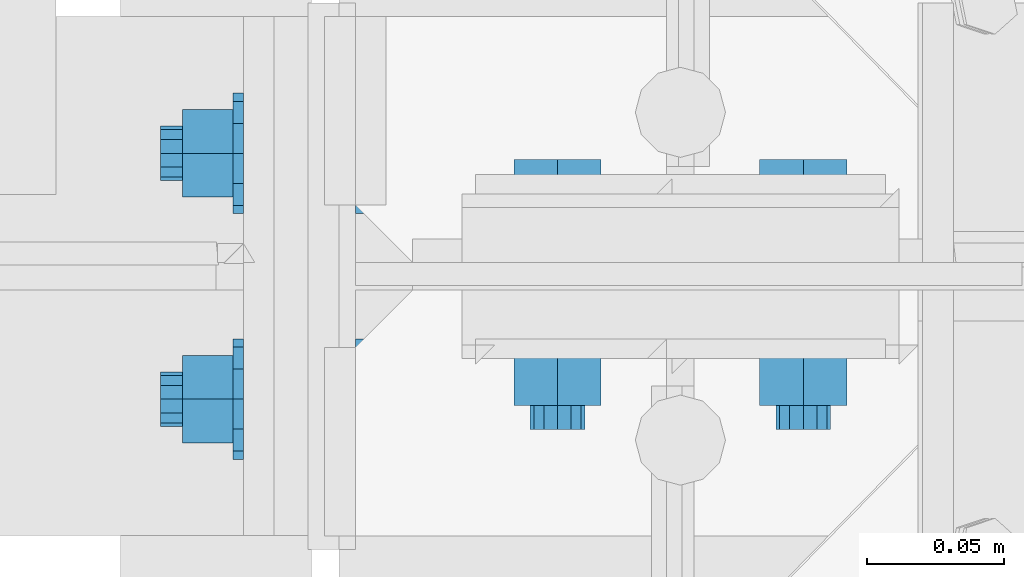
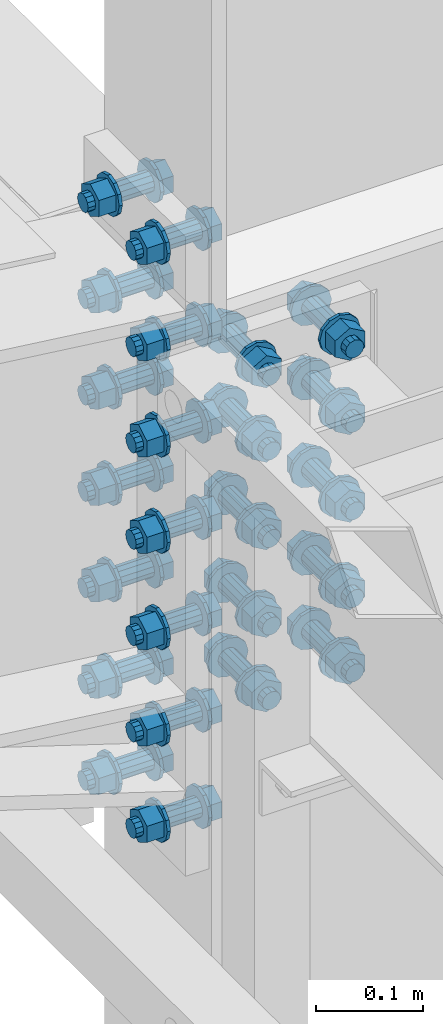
# One storey, part 252 of 3134: 2 mechanical fasteners, 2 elements without a shape of their own.
"""IFC2X3 building model written with IfcOpenShell, lengths in millimetres."""

from ifc_helpers import new_model, si_unit, frame, origin_with_axes, place, context, subcontext, project, spatial, faceted_brep, source, transform, mapped, material, type_object, element, aggregate, save


model = new_model("IFC2X3")

# Units and contexts
model_context = context("Model", 3, precision=1e-05, world=origin_with_axes())
body_context = subcontext(model_context, "Body", "Model", "MODEL_VIEW")
ifc_project = project(units=[si_unit("LENGTHUNIT", "METRE", prefix="MILLI"), si_unit("AREAUNIT", "SQUARE_METRE"), si_unit("VOLUMEUNIT", "CUBIC_METRE"), si_unit("MASSUNIT", "GRAM", prefix="KILO"), si_unit("TIMEUNIT", "SECOND"), si_unit("PLANEANGLEUNIT", "RADIAN"), si_unit("SOLIDANGLEUNIT", "STERADIAN"), si_unit("THERMODYNAMICTEMPERATUREUNIT", "DEGREE_CELSIUS"), si_unit("LUMINOUSINTENSITYUNIT", "LUMEN")], contexts=[model_context])

# Site, building, storey
site_placement = place(None, origin_with_axes())
site = spatial("IfcSite", under=ifc_project, at=site_placement, CompositionType="ELEMENT")
building_placement = place(site_placement, origin_with_axes())
building = spatial("IfcBuilding", under=site, at=building_placement, Name="Undefined", CompositionType="ELEMENT")
storey_placement = place(building_placement, origin_with_axes())
storey = spatial("IfcBuildingStorey", under=building, at=storey_placement, Name="Undefined", CompositionType="ELEMENT", Elevation=0.0)

# Assembly, mechanical fastener
assembly_1_placement = place(storey_placement, origin_with_axes())
assembly_1 = element("IfcElementAssembly", 1, at=assembly_1_placement, inside=storey, Name="IPE450", AssemblyPlace="NOTDEFINED", PredefinedType="RIGID_FRAME")
ifc_material = material(Name="HR10.9")
mechanical_fastener_type = type_object("IfcMechanicalFastenerType", Name="Bolt assembly")
shared_shape_1 = source(origin_with_axes(), body_context, "Body", "Brep", [
    faceted_brep([(18.475208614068, -33.599999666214, 0.0), (9.23760430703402, -33.599999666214, 16.0), (-9.23760430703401, -33.599999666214, 16.0), (-18.475208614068, -33.599999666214, 2.2625605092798e-15), (-9.23760430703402, -33.599999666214, -16.0), (9.237604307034, -33.599999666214, -16.0), (9.237604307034, -19.7000000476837, -16.0), (-9.23760430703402, -19.7000000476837, -16.0), (-18.475208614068, -19.7000000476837, 2.2625605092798e-15), (-9.23760430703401, -19.7000000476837, 16.0), (9.23760430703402, -19.7000000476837, 16.0), (18.475208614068, -19.7000000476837, 0.0), (10.0, -19.7000000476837, 0.0), (8.66025403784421, -19.7000000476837, 5.0000000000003), (4.9999999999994, -19.7000000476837, 8.66025403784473), (-1.03633598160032e-12, -19.7000000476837, 10.0), (-5.00000000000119, -19.7000000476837, 8.6602540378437), (-8.66025403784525, -19.7000000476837, 4.99999999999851), (-10.0, -19.7000000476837, -2.07267196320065e-12), (-8.66025403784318, -19.7000000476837, -5.00000000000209), (-4.99999999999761, -19.7000000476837, -8.66025403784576), (3.09790571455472e-12, -19.7000000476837, -10.0), (5.00000000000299, -19.7000000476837, -8.66025403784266), (8.66025403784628, -19.7000000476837, -4.99999999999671), (8.66025403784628, 55.2999999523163, -4.99999999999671), (5.00000000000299, 55.2999999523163, -8.66025403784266), (3.09790571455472e-12, 55.2999999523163, -10.0), (-4.99999999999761, 55.2999999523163, -8.66025403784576), (-8.66025403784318, 55.2999999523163, -5.00000000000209), (-10.0, 55.2999999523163, -2.07267196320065e-12), (-8.66025403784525, 55.2999999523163, 4.99999999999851), (-5.00000000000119, 55.2999999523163, 8.6602540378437), (-1.03633598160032e-12, 55.2999999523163, 10.0), (4.9999999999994, 55.2999999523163, 8.66025403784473), (8.66025403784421, 55.2999999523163, 5.0000000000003), (10.0, 55.2999999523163, 0.0), (22.0, -19.7000000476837, 0.0), (19.0525588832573, -19.7000000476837, 11.0000000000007), (10.9999999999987, -19.7000000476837, 19.0525588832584), (-2.27993915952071e-12, -19.7000000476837, 22.0), (-11.0000000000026, -19.7000000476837, 19.0525588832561), (-19.0525588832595, -19.7000000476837, 10.9999999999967), (-22.0, -19.7000000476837, -4.55987831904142e-12), (-19.052558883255, -19.7000000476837, -11.0000000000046), (-10.9999999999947, -19.7000000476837, -19.0525588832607), (6.81539257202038e-12, -19.7000000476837, -22.0), (11.0000000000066, -19.7000000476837, -19.0525588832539), (19.0525588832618, -19.7000000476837, -10.9999999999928), (19.0525588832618, -16.0, -10.9999999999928), (11.0000000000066, -16.0, -19.0525588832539), (6.81539257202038e-12, -16.0, -22.0), (-10.9999999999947, -16.0, -19.0525588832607), (-19.052558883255, -16.0, -11.0000000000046), (-22.0, -16.0, -4.55987831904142e-12), (-19.0525588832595, -16.0, 10.9999999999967), (-11.0000000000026, -16.0, 19.0525588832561), (-2.27993915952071e-12, -16.0, 22.0), (10.9999999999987, -16.0, 19.0525588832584), (19.0525588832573, -16.0, 11.0000000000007), (22.0, -16.0, 0.0), (22.0, 25.0, 0.0), (19.0525588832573, 25.0, 11.0000000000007), (10.9999999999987, 25.0, 19.0525588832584), (-2.27993915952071e-12, 25.0, 22.0), (-11.0000000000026, 25.0, 19.0525588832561), (-19.0525588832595, 25.0, 10.9999999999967), (-22.0, 25.0, -4.55987831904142e-12), (-19.052558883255, 25.0, -11.0000000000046), (-10.9999999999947, 25.0, -19.0525588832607), (6.81539257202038e-12, 25.0, -22.0), (11.0000000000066, 25.0, -19.0525588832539), (19.0525588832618, 25.0, -10.9999999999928), (19.0525588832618, 28.7000000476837, -10.9999999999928), (11.0000000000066, 28.7000000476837, -19.0525588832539), (6.81539257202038e-12, 28.7000000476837, -22.0), (-10.9999999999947, 28.7000000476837, -19.0525588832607), (-19.052558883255, 28.7000000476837, -11.0000000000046), (-22.0, 28.7000000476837, -4.55987831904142e-12), (-19.0525588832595, 28.7000000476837, 10.9999999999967), (-11.0000000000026, 28.7000000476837, 19.0525588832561), (-2.27993915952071e-12, 28.7000000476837, 22.0), (10.9999999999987, 28.7000000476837, 19.0525588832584), (19.0525588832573, 28.7000000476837, 11.0000000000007), (22.0, 28.7000000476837, 0.0), (18.475208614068, 28.7000000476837, 0.0), (9.23760430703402, 28.7000000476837, 16.0), (-9.23760430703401, 28.7000000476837, 16.0), (-18.475208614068, 28.7000000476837, 2.2625605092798e-15), (-9.23760430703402, 28.7000000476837, -16.0), (9.237604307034, 28.7000000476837, -16.0), (9.237604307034, 47.2499992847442, -16.0), (-9.23760430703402, 47.2499992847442, -16.0), (-18.475208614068, 47.2499992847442, 2.2625605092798e-15), (-9.23760430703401, 47.2499992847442, 16.0), (9.23760430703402, 47.2499992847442, 16.0), (18.475208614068, 47.2499992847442, 0.0)], [[[0, 1, 2, 3, 4, 5]], [[6, 7, 8, 9, 10, 11]], [[0, 11, 10, 1]], [[1, 10, 9, 2]], [[2, 9, 8, 3]], [[3, 8, 7, 4]], [[4, 7, 6, 5]], [[5, 6, 11, 0]], [[12, 13, 14, 15, 16, 17, 18, 19, 20, 21, 22, 23]], [[24, 25, 26, 27, 28, 29, 30, 31, 32, 33, 34, 35]], [[12, 35, 34, 13]], [[13, 34, 33, 14]], [[14, 33, 32, 15]], [[15, 32, 31, 16]], [[16, 31, 30, 17]], [[17, 30, 29, 18]], [[18, 29, 28, 19]], [[19, 28, 27, 20]], [[20, 27, 26, 21]], [[21, 26, 25, 22]], [[22, 25, 24, 23]], [[23, 24, 35, 12]], [[36, 37, 38, 39, 40, 41, 42, 43, 44, 45, 46, 47]], [[48, 49, 50, 51, 52, 53, 54, 55, 56, 57, 58, 59]], [[36, 59, 58, 37]], [[37, 58, 57, 38]], [[38, 57, 56, 39]], [[39, 56, 55, 40]], [[40, 55, 54, 41]], [[41, 54, 53, 42]], [[42, 53, 52, 43]], [[43, 52, 51, 44]], [[44, 51, 50, 45]], [[45, 50, 49, 46]], [[46, 49, 48, 47]], [[47, 48, 59, 36]], [[60, 61, 62, 63, 64, 65, 66, 67, 68, 69, 70, 71]], [[72, 73, 74, 75, 76, 77, 78, 79, 80, 81, 82, 83]], [[60, 83, 82, 61]], [[61, 82, 81, 62]], [[62, 81, 80, 63]], [[63, 80, 79, 64]], [[64, 79, 78, 65]], [[65, 78, 77, 66]], [[66, 77, 76, 67]], [[67, 76, 75, 68]], [[68, 75, 74, 69]], [[69, 74, 73, 70]], [[70, 73, 72, 71]], [[71, 72, 83, 60]], [[84, 85, 86, 87, 88, 89]], [[90, 91, 92, 93, 94, 95]], [[84, 95, 94, 85]], [[85, 94, 93, 86]], [[86, 93, 92, 87]], [[87, 92, 91, 88]], [[88, 91, 90, 89]], [[89, 90, 95, 84]]]),
    faceted_brep([(11.0, -15.9, 0.0), (9.52627944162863, -15.9, 5.50000000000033), (5.49999999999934, -15.9, 9.5262794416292), (-1.13996957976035e-12, -15.9, 11.0), (-5.50000000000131, -15.9, 9.52627944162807), (-9.52627944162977, -15.9, 5.49999999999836), (-11.0, -15.9, -2.27993915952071e-12), (-9.5262794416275, -15.9, -5.5000000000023), (-5.49999999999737, -15.9, -9.52627944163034), (3.40769628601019e-12, -15.9, -11.0), (5.50000000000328, -15.9, -9.52627944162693), (9.52627944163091, -15.9, -5.49999999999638), (9.52627944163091, 0.0999999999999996, -5.49999999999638), (5.50000000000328, 0.0999999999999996, -9.52627944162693), (3.40769628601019e-12, 0.0999999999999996, -11.0), (-5.49999999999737, 0.0999999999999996, -9.52627944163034), (-9.5262794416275, 0.0999999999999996, -5.5000000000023), (-11.0, 0.0999999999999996, -2.27993915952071e-12), (-9.52627944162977, 0.0999999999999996, 5.49999999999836), (-5.50000000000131, 0.0999999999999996, 9.52627944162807), (-1.13996957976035e-12, 0.0999999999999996, 11.0), (5.49999999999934, 0.0999999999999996, 9.5262794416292), (9.52627944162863, 0.0999999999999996, 5.50000000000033), (11.0, 0.0999999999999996, 0.0), (11.0, -0.1, 0.0), (9.52627944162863, -0.1, 5.50000000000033), (5.49999999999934, -0.1, 9.5262794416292), (-1.13996957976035e-12, -0.1, 11.0), (-5.50000000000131, -0.1, 9.52627944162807), (-9.52627944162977, -0.1, 5.49999999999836), (-11.0, -0.1, -2.27993915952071e-12), (-9.5262794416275, -0.1, -5.5000000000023), (-5.49999999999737, -0.1, -9.52627944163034), (3.40769628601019e-12, -0.1, -11.0), (5.50000000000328, -0.1, -9.52627944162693), (9.52627944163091, -0.1, -5.49999999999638), (9.52627944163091, 25.0, -5.49999999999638), (5.50000000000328, 25.0, -9.52627944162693), (3.40769628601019e-12, 25.0, -11.0), (-5.49999999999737, 25.0, -9.52627944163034), (-9.5262794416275, 25.0, -5.5000000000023), (-11.0, 25.0, -2.27993915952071e-12), (-9.52627944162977, 25.0, 5.49999999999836), (-5.50000000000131, 25.0, 9.52627944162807), (-1.13996957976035e-12, 25.0, 11.0), (5.49999999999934, 25.0, 9.5262794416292), (9.52627944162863, 25.0, 5.50000000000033), (11.0, 25.0, 0.0)], [[[0, 1, 2, 3, 4, 5, 6, 7, 8, 9, 10, 11]], [[12, 13, 14, 15, 16, 17, 18, 19, 20, 21, 22, 23]], [[0, 23, 22, 1]], [[1, 22, 21, 2]], [[2, 21, 20, 3]], [[3, 20, 19, 4]], [[4, 19, 18, 5]], [[5, 18, 17, 6]], [[6, 17, 16, 7]], [[7, 16, 15, 8]], [[8, 15, 14, 9]], [[9, 14, 13, 10]], [[10, 13, 12, 11]], [[11, 12, 23, 0]], [[24, 25, 26, 27, 28, 29, 30, 31, 32, 33, 34, 35]], [[36, 37, 38, 39, 40, 41, 42, 43, 44, 45, 46, 47]], [[24, 47, 46, 25]], [[25, 46, 45, 26]], [[26, 45, 44, 27]], [[27, 44, 43, 28]], [[28, 43, 42, 29]], [[29, 42, 41, 30]], [[30, 41, 40, 31]], [[31, 40, 39, 32]], [[32, 39, 38, 33]], [[33, 38, 37, 34]], [[34, 37, 36, 35]], [[35, 36, 47, 24]]]),
])
mechanical_fastener_1_placement = place(assembly_1_placement, frame((44065.0, 40250.0, 4461.54211857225), z_axis=(0.0, 1.0, 0.0), x_axis=(0.0, 0.0, -1.0)))
mechanical_fastener_1 = element("IfcMechanicalFastener", 2, at=mechanical_fastener_1_placement, type_object=mechanical_fastener_type, material=ifc_material, Name="Bolt assembly", NominalDiameter=20.0, NominalLength=75.0, context=body_context, shape_type="MappedRepresentation", body=[
    mapped(shared_shape_1, transform((0.0, 0.0, -45.0))),
    mapped(shared_shape_1, transform((0.0, 0.0, 45.0))),
    mapped(shared_shape_1, transform((110.0, 0.0, -45.0))),
    mapped(shared_shape_1, transform((110.0, 0.0, 45.0))),
    mapped(shared_shape_1, transform((220.0, 0.0, -45.0))),
    mapped(shared_shape_1, transform((220.0, 0.0, 45.0))),
    mapped(shared_shape_1, transform((330.0, 0.0, -45.0))),
    mapped(shared_shape_1, transform((330.0, 0.0, 45.0))),
    mapped(shared_shape_1, transform((440.0, 0.0, -45.0))),
    mapped(shared_shape_1, transform((440.0, 0.0, 45.0))),
    mapped(shared_shape_1, transform((550.0, 0.0, -45.0))),
    mapped(shared_shape_1, transform((550.0, 0.0, 45.0))),
    mapped(shared_shape_1, transform((660.0, 0.0, -45.0))),
    mapped(shared_shape_1, transform((660.0, 0.0, 45.0))),
])
aggregate(assembly_1, [mechanical_fastener_1])

assembly_2_placement = place(storey_placement, origin_with_axes())
assembly_2 = element("IfcElementAssembly", 3, at=assembly_2_placement, inside=storey, Name="300", AssemblyPlace="NOTDEFINED", PredefinedType="RIGID_FRAME")
shared_shape_2 = source(origin_with_axes(), body_context, "Body", "Brep", [
    faceted_brep([(18.475208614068, -18.3999996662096, 0.0), (9.23760430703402, -18.3999996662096, 16.0), (-9.23760430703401, -18.3999996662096, 16.0), (-18.475208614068, -18.3999996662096, 2.2625605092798e-15), (-9.23760430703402, -18.3999996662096, -16.0), (9.237604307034, -18.3999996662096, -16.0), (9.237604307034, -4.50000004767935, -16.0), (-9.23760430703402, -4.50000004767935, -16.0), (-18.475208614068, -4.50000004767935, 2.2625605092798e-15), (-9.23760430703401, -4.50000004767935, 16.0), (9.23760430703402, -4.50000004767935, 16.0), (18.475208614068, -4.50000004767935, 0.0), (10.0, -4.50000004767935, 0.0), (8.66025403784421, -4.50000004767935, 5.0000000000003), (4.9999999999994, -4.50000004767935, 8.66025403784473), (-1.03633598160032e-12, -4.50000004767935, 10.0), (-5.00000000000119, -4.50000004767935, 8.6602540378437), (-8.66025403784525, -4.50000004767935, 4.99999999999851), (-10.0, -4.50000004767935, -2.07267196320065e-12), (-8.66025403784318, -4.50000004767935, -5.00000000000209), (-4.99999999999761, -4.50000004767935, -8.66025403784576), (3.09790571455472e-12, -4.50000004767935, -10.0), (5.00000000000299, -4.50000004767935, -8.66025403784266), (8.66025403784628, -4.50000004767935, -4.99999999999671), (8.66025403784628, 80.4999999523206, -4.99999999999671), (5.00000000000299, 80.4999999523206, -8.66025403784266), (3.09790571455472e-12, 80.4999999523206, -10.0), (-4.99999999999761, 80.4999999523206, -8.66025403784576), (-8.66025403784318, 80.4999999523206, -5.00000000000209), (-10.0, 80.4999999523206, -2.07267196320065e-12), (-8.66025403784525, 80.4999999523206, 4.99999999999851), (-5.00000000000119, 80.4999999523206, 8.6602540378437), (-1.03633598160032e-12, 80.4999999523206, 10.0), (4.9999999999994, 80.4999999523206, 8.66025403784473), (8.66025403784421, 80.4999999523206, 5.0000000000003), (10.0, 80.4999999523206, 0.0), (22.0, -4.50000004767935, 0.0), (19.0525588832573, -4.50000004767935, 11.0000000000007), (10.9999999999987, -4.50000004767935, 19.0525588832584), (-2.27993915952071e-12, -4.50000004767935, 22.0), (-11.0000000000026, -4.50000004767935, 19.0525588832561), (-19.0525588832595, -4.50000004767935, 10.9999999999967), (-22.0, -4.50000004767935, -4.55987831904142e-12), (-19.052558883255, -4.50000004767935, -11.0000000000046), (-10.9999999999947, -4.50000004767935, -19.0525588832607), (6.81539257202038e-12, -4.50000004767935, -22.0), (11.0000000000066, -4.50000004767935, -19.0525588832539), (19.0525588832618, -4.50000004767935, -10.9999999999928), (19.0525588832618, -0.799999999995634, -10.9999999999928), (11.0000000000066, -0.799999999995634, -19.0525588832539), (6.81539257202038e-12, -0.799999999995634, -22.0), (-10.9999999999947, -0.799999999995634, -19.0525588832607), (-19.052558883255, -0.799999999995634, -11.0000000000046), (-22.0, -0.799999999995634, -4.55987831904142e-12), (-19.0525588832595, -0.799999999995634, 10.9999999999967), (-11.0000000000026, -0.799999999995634, 19.0525588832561), (-2.27993915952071e-12, -0.799999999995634, 22.0), (10.9999999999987, -0.799999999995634, 19.0525588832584), (19.0525588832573, -0.799999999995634, 11.0000000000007), (22.0, -0.799999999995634, 0.0), (22.0, 49.4000000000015, 0.0), (19.0525588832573, 49.4000000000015, 11.0000000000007), (10.9999999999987, 49.4000000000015, 19.0525588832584), (-2.27993915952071e-12, 49.4000000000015, 22.0), (-11.0000000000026, 49.4000000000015, 19.0525588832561), (-19.0525588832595, 49.4000000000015, 10.9999999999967), (-22.0, 49.4000000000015, -4.55987831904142e-12), (-19.052558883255, 49.4000000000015, -11.0000000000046), (-10.9999999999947, 49.4000000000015, -19.0525588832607), (6.81539257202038e-12, 49.4000000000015, -22.0), (11.0000000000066, 49.4000000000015, -19.0525588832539), (19.0525588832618, 49.4000000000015, -10.9999999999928), (19.0525588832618, 53.1000000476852, -10.9999999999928), (11.0000000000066, 53.1000000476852, -19.0525588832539), (6.81539257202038e-12, 53.1000000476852, -22.0), (-10.9999999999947, 53.1000000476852, -19.0525588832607), (-19.052558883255, 53.1000000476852, -11.0000000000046), (-22.0, 53.1000000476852, -4.55987831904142e-12), (-19.0525588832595, 53.1000000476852, 10.9999999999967), (-11.0000000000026, 53.1000000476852, 19.0525588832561), (-2.27993915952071e-12, 53.1000000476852, 22.0), (10.9999999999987, 53.1000000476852, 19.0525588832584), (19.0525588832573, 53.1000000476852, 11.0000000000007), (22.0, 53.1000000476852, 0.0), (18.475208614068, 53.1000000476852, 0.0), (9.23760430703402, 53.1000000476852, 16.0), (-9.23760430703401, 53.1000000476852, 16.0), (-18.475208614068, 53.1000000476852, 2.2625605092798e-15), (-9.23760430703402, 53.1000000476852, -16.0), (9.237604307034, 53.1000000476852, -16.0), (9.237604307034, 71.6499992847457, -16.0), (-9.23760430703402, 71.6499992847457, -16.0), (-18.475208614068, 71.6499992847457, 2.2625605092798e-15), (-9.23760430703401, 71.6499992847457, 16.0), (9.23760430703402, 71.6499992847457, 16.0), (18.475208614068, 71.6499992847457, 0.0)], [[[0, 1, 2, 3, 4, 5]], [[6, 7, 8, 9, 10, 11]], [[0, 11, 10, 1]], [[1, 10, 9, 2]], [[2, 9, 8, 3]], [[3, 8, 7, 4]], [[4, 7, 6, 5]], [[5, 6, 11, 0]], [[12, 13, 14, 15, 16, 17, 18, 19, 20, 21, 22, 23]], [[24, 25, 26, 27, 28, 29, 30, 31, 32, 33, 34, 35]], [[12, 35, 34, 13]], [[13, 34, 33, 14]], [[14, 33, 32, 15]], [[15, 32, 31, 16]], [[16, 31, 30, 17]], [[17, 30, 29, 18]], [[18, 29, 28, 19]], [[19, 28, 27, 20]], [[20, 27, 26, 21]], [[21, 26, 25, 22]], [[22, 25, 24, 23]], [[23, 24, 35, 12]], [[36, 37, 38, 39, 40, 41, 42, 43, 44, 45, 46, 47]], [[48, 49, 50, 51, 52, 53, 54, 55, 56, 57, 58, 59]], [[36, 59, 58, 37]], [[37, 58, 57, 38]], [[38, 57, 56, 39]], [[39, 56, 55, 40]], [[40, 55, 54, 41]], [[41, 54, 53, 42]], [[42, 53, 52, 43]], [[43, 52, 51, 44]], [[44, 51, 50, 45]], [[45, 50, 49, 46]], [[46, 49, 48, 47]], [[47, 48, 59, 36]], [[60, 61, 62, 63, 64, 65, 66, 67, 68, 69, 70, 71]], [[72, 73, 74, 75, 76, 77, 78, 79, 80, 81, 82, 83]], [[60, 83, 82, 61]], [[61, 82, 81, 62]], [[62, 81, 80, 63]], [[63, 80, 79, 64]], [[64, 79, 78, 65]], [[65, 78, 77, 66]], [[66, 77, 76, 67]], [[67, 76, 75, 68]], [[68, 75, 74, 69]], [[69, 74, 73, 70]], [[70, 73, 72, 71]], [[71, 72, 83, 60]], [[84, 85, 86, 87, 88, 89]], [[90, 91, 92, 93, 94, 95]], [[84, 95, 94, 85]], [[85, 94, 93, 86]], [[86, 93, 92, 87]], [[87, 92, 91, 88]], [[88, 91, 90, 89]], [[89, 90, 95, 84]]]),
    faceted_brep([(11.0, 19.2000000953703, 0.0), (9.52627944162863, 19.2000000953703, 5.50000000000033), (5.49999999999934, 19.2000000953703, 9.5262794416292), (-1.13996957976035e-12, 19.2000000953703, 11.0), (-5.50000000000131, 19.2000000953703, 9.52627944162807), (-9.52627944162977, 19.2000000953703, 5.49999999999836), (-11.0, 19.2000000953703, -2.27993915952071e-12), (-9.5262794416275, 19.2000000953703, -5.5000000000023), (-5.49999999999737, 19.2000000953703, -9.52627944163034), (3.40769628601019e-12, 19.2000000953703, -11.0), (5.50000000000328, 19.2000000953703, -9.52627944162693), (9.52627944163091, 19.2000000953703, -5.49999999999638), (9.52627944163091, 29.3999999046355, -5.49999999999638), (5.50000000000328, 29.3999999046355, -9.52627944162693), (3.40769628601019e-12, 29.3999999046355, -11.0), (-5.49999999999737, 29.3999999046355, -9.52627944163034), (-9.5262794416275, 29.3999999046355, -5.5000000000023), (-11.0, 29.3999999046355, -2.27993915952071e-12), (-9.52627944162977, 29.3999999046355, 5.49999999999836), (-5.50000000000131, 29.3999999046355, 9.52627944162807), (-1.13996957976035e-12, 29.3999999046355, 11.0), (5.49999999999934, 29.3999999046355, 9.5262794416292), (9.52627944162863, 29.3999999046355, 5.50000000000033), (11.0, 29.3999999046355, 0.0), (11.0, -0.699999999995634, 0.0), (9.52627944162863, -0.699999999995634, 5.50000000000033), (5.49999999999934, -0.699999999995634, 9.5262794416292), (-1.13996957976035e-12, -0.699999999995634, 11.0), (-5.50000000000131, -0.699999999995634, 9.52627944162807), (-9.52627944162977, -0.699999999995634, 5.49999999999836), (-11.0, -0.699999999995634, -2.27993915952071e-12), (-9.5262794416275, -0.699999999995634, -5.5000000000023), (-5.49999999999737, -0.699999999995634, -9.52627944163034), (3.40769628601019e-12, -0.699999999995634, -11.0), (5.50000000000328, -0.699999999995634, -9.52627944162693), (9.52627944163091, -0.699999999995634, -5.49999999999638), (9.52627944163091, 19.3000000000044, -5.49999999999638), (5.50000000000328, 19.3000000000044, -9.52627944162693), (3.40769628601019e-12, 19.3000000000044, -11.0), (-5.49999999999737, 19.3000000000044, -9.52627944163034), (-9.5262794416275, 19.3000000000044, -5.5000000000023), (-11.0, 19.3000000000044, -2.27993915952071e-12), (-9.52627944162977, 19.3000000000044, 5.49999999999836), (-5.50000000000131, 19.3000000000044, 9.52627944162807), (-1.13996957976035e-12, 19.3000000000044, 11.0), (5.49999999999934, 19.3000000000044, 9.5262794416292), (9.52627944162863, 19.3000000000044, 5.50000000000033), (11.0, 19.3000000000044, 0.0), (11.0, 29.3000000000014, 0.0), (9.52627944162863, 29.3000000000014, 5.50000000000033), (5.49999999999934, 29.3000000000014, 9.5262794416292), (-1.13996957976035e-12, 29.3000000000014, 11.0), (-5.50000000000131, 29.3000000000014, 9.52627944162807), (-9.52627944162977, 29.3000000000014, 5.49999999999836), (-11.0, 29.3000000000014, -2.27993915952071e-12), (-9.5262794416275, 29.3000000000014, -5.5000000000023), (-5.49999999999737, 29.3000000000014, -9.52627944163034), (3.40769628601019e-12, 29.3000000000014, -11.0), (5.50000000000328, 29.3000000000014, -9.52627944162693), (9.52627944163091, 29.3000000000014, -5.49999999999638), (9.52627944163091, 49.4000000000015, -5.49999999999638), (5.50000000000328, 49.4000000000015, -9.52627944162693), (3.40769628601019e-12, 49.4000000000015, -11.0), (-5.49999999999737, 49.4000000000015, -9.52627944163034), (-9.5262794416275, 49.4000000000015, -5.5000000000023), (-11.0, 49.4000000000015, -2.27993915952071e-12), (-9.52627944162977, 49.4000000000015, 5.49999999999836), (-5.50000000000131, 49.4000000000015, 9.52627944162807), (-1.13996957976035e-12, 49.4000000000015, 11.0), (5.49999999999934, 49.4000000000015, 9.5262794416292), (9.52627944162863, 49.4000000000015, 5.50000000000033), (11.0, 49.4000000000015, 0.0)], [[[0, 1, 2, 3, 4, 5, 6, 7, 8, 9, 10, 11]], [[12, 13, 14, 15, 16, 17, 18, 19, 20, 21, 22, 23]], [[0, 23, 22, 1]], [[1, 22, 21, 2]], [[2, 21, 20, 3]], [[3, 20, 19, 4]], [[4, 19, 18, 5]], [[5, 18, 17, 6]], [[6, 17, 16, 7]], [[7, 16, 15, 8]], [[8, 15, 14, 9]], [[9, 14, 13, 10]], [[10, 13, 12, 11]], [[11, 12, 23, 0]], [[24, 25, 26, 27, 28, 29, 30, 31, 32, 33, 34, 35]], [[36, 37, 38, 39, 40, 41, 42, 43, 44, 45, 46, 47]], [[24, 47, 46, 25]], [[25, 46, 45, 26]], [[26, 45, 44, 27]], [[27, 44, 43, 28]], [[28, 43, 42, 29]], [[29, 42, 41, 30]], [[30, 41, 40, 31]], [[31, 40, 39, 32]], [[32, 39, 38, 33]], [[33, 38, 37, 34]], [[34, 37, 36, 35]], [[35, 36, 47, 24]], [[48, 49, 50, 51, 52, 53, 54, 55, 56, 57, 58, 59]], [[60, 61, 62, 63, 64, 65, 66, 67, 68, 69, 70, 71]], [[48, 71, 70, 49]], [[49, 70, 69, 50]], [[50, 69, 68, 51]], [[51, 68, 67, 52]], [[52, 67, 66, 53]], [[53, 66, 65, 54]], [[54, 65, 64, 55]], [[55, 64, 63, 56]], [[56, 63, 62, 57]], [[57, 62, 61, 58]], [[58, 61, 60, 59]], [[59, 60, 71, 48]]]),
])
mechanical_fastener_2_placement = place(assembly_2_placement, frame((44200.0, 40274.3, 4273.5), z_axis=(-1.0, 0.0, 0.0), x_axis=(0.0, 0.0, -1.0)))
mechanical_fastener_2 = element("IfcMechanicalFastener", 4, at=mechanical_fastener_2_placement, type_object=mechanical_fastener_type, material=ifc_material, Name="Bolt assembly", NominalDiameter=20.0, NominalLength=85.0, context=body_context, shape_type="MappedRepresentation", body=[
    mapped(shared_shape_2, transform((0.0, 0.0, -45.0))),
    mapped(shared_shape_2, transform((85.0, 0.0, -45.0))),
    mapped(shared_shape_2, transform((185.0, 0.0, -45.0))),
    mapped(shared_shape_2, transform((285.0, 0.0, -45.0))),
    mapped(shared_shape_2, transform((370.0, 0.0, -45.0))),
    mapped(shared_shape_2, transform((0.0, 0.0, 45.0))),
    mapped(shared_shape_2, transform((85.0, 0.0, 45.0))),
    mapped(shared_shape_2, transform((185.0, 0.0, 45.0))),
    mapped(shared_shape_2, transform((285.0, 0.0, 45.0))),
    mapped(shared_shape_2, transform((370.0, 0.0, 45.0))),
])
aggregate(assembly_2, [mechanical_fastener_2])

save(model, "model.ifc")
